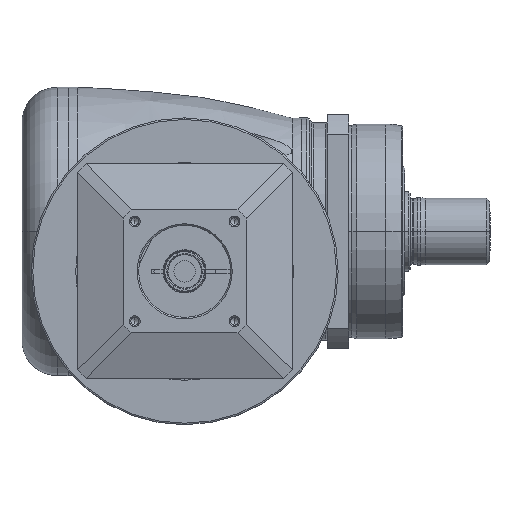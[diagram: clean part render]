
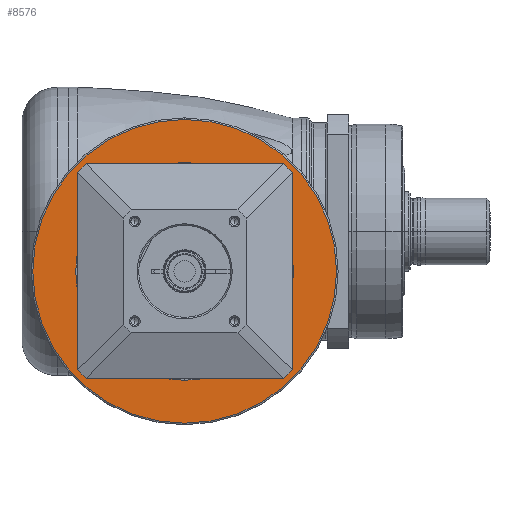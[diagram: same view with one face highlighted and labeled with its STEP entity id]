
A CAD part, front view. The second image highlights one B-rep face of the part: STEP entity #8576.
In plain terms, the highlighted planar face has unit normal (0, -1, 0) as drawn and (1, 0, 0) by its records, which use the part's own axes.
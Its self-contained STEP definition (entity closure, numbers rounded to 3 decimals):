
#7559=CARTESIAN_POINT('',(-9.,0.,0.));
#7560=DIRECTION('',(-1.,0.,0.));
#7561=DIRECTION('',(0.,-1.,0.));
#7562=AXIS2_PLACEMENT_3D('',#7559,#7560,#7561);
#7564=CARTESIAN_POINT('',(-9.,0.,0.));
#7565=DIRECTION('',(-1.,0.,0.));
#7566=DIRECTION('',(0.,1.,0.));
#7567=AXIS2_PLACEMENT_3D('',#7564,#7565,#7566);
#7569=CARTESIAN_POINT('',(-9.,0.,0.));
#7570=DIRECTION('',(-1.,0.,0.));
#7571=DIRECTION('',(0.,-1.,0.));
#7572=AXIS2_PLACEMENT_3D('',#7569,#7570,#7571);
#7574=CARTESIAN_POINT('',(-9.,0.,0.));
#7575=DIRECTION('',(-1.,0.,0.));
#7576=DIRECTION('',(0.,1.,0.));
#7577=AXIS2_PLACEMENT_3D('',#7574,#7575,#7576);
#7821=CARTESIAN_POINT('',(-9.,-49.5,0.));
#7822=CARTESIAN_POINT('',(-9.,49.5,0.));
#7823=VERTEX_POINT('',#7821);
#7824=VERTEX_POINT('',#7822);
#7879=CARTESIAN_POINT('',(-9.,-35.5,0.));
#7880=CARTESIAN_POINT('',(-9.,35.5,0.));
#7881=VERTEX_POINT('',#7879);
#7882=VERTEX_POINT('',#7880);
#8561=CARTESIAN_POINT('',(-9.,0.,0.));
#8562=DIRECTION('',(1.,0.,0.));
#8563=DIRECTION('',(0.,-1.,0.));
#8564=AXIS2_PLACEMENT_3D('',#8561,#8562,#8563);
#8565=PLANE('',#8564);
#8566=ORIENTED_EDGE('',*,*,#8493,.T.);
#8567=ORIENTED_EDGE('',*,*,#8478,.T.);
#8568=EDGE_LOOP('',(#8566,#8567));
#8569=FACE_OUTER_BOUND('',#8568,.F.);
#8571=ORIENTED_EDGE('',*,*,#8570,.F.);
#8573=ORIENTED_EDGE('',*,*,#8572,.F.);
#8574=EDGE_LOOP('',(#8571,#8573));
#8575=FACE_BOUND('',#8574,.F.);
#8576=ADVANCED_FACE('',(#8569,#8575),#8565,.T.);
#7563=CIRCLE('',#7562,35.5);
#7568=CIRCLE('',#7567,35.5);
#7573=CIRCLE('',#7572,49.5);
#7578=CIRCLE('',#7577,49.5);
#8478=EDGE_CURVE('',#7824,#7823,#7578,.T.);
#8493=EDGE_CURVE('',#7823,#7824,#7573,.T.);
#8570=EDGE_CURVE('',#7881,#7882,#7563,.T.);
#8572=EDGE_CURVE('',#7882,#7881,#7568,.T.);
